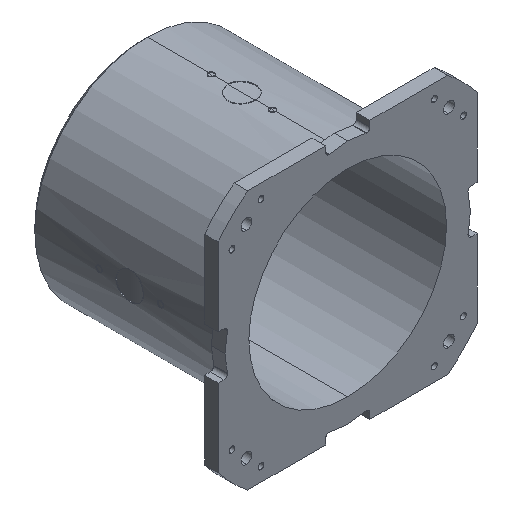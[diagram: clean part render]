
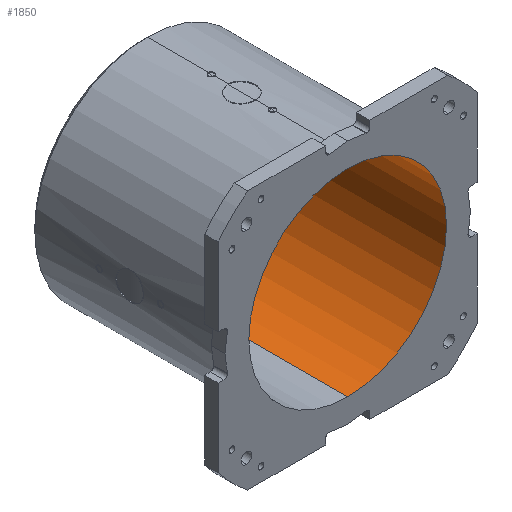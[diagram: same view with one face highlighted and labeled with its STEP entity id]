
A CAD part, isometric view. The second image highlights one B-rep face of the part: STEP entity #1850.
In plain terms, the highlighted cylindrical face has radius 145 mm (diameter 290 mm), a partial arc.
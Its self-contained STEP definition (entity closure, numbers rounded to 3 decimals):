
#131 = CARTESIAN_POINT ( 'NONE',  ( 0., 0., 0. ) ) ;
#285 = DIRECTION ( 'NONE',  ( 0., 1., 0. ) ) ;
#395 = DIRECTION ( 'NONE',  ( 0., 0., 1. ) ) ;
#561 = CARTESIAN_POINT ( 'NONE',  ( 0., 0., 145. ) ) ;
#741 = VECTOR ( 'NONE', #285, 1000. ) ;
#904 = FACE_OUTER_BOUND ( 'NONE', #3631, .T. ) ;
#1371 = EDGE_CURVE ( 'NONE', #6035, #2912, #7455, .T. ) ;
#1593 = CIRCLE ( 'NONE', #2336, 145. ) ;
#1787 = AXIS2_PLACEMENT_3D ( 'NONE', #131, #2499, #4900 ) ;
#1850 = ADVANCED_FACE ( 'NONE', ( #904 ), #5495, .F. ) ;
#1984 = ORIENTED_EDGE ( 'NONE', *, *, #4471, .T. ) ;
#2047 = CARTESIAN_POINT ( 'NONE',  ( 0., 0., -145. ) ) ;
#2086 = DIRECTION ( 'NONE',  ( 0., 1., 0. ) ) ;
#2202 = CARTESIAN_POINT ( 'NONE',  ( 0., 0., 0. ) ) ;
#2336 = AXIS2_PLACEMENT_3D ( 'NONE', #7424, #5668, #2670 ) ;
#2411 = AXIS2_PLACEMENT_3D ( 'NONE', #2202, #2086, #395 ) ;
#2499 = DIRECTION ( 'NONE',  ( 0., 1., 0. ) ) ;
#2644 = EDGE_CURVE ( 'NONE', #4664, #6035, #5871, .T. ) ;
#2670 = DIRECTION ( 'NONE',  ( 0., 0., 1. ) ) ;
#2698 = EDGE_CURVE ( 'NONE', #4664, #3345, #2819, .T. ) ;
#2819 = LINE ( 'NONE', #7022, #6415 ) ;
#2912 = VERTEX_POINT ( 'NONE', #5937 ) ;
#3345 = VERTEX_POINT ( 'NONE', #3957 ) ;
#3392 = CARTESIAN_POINT ( 'NONE',  ( 0., 0., -145. ) ) ;
#3631 = EDGE_LOOP ( 'NONE', ( #4581, #5662, #6191, #1984 ) ) ;
#3957 = CARTESIAN_POINT ( 'NONE',  ( 0., 282., 145. ) ) ;
#4471 = EDGE_CURVE ( 'NONE', #3345, #2912, #1593, .T. ) ;
#4581 = ORIENTED_EDGE ( 'NONE', *, *, #1371, .F. ) ;
#4628 = DIRECTION ( 'NONE',  ( 0., 1., 0. ) ) ;
#4664 = VERTEX_POINT ( 'NONE', #561 ) ;
#4900 = DIRECTION ( 'NONE',  ( 0., 0., 1. ) ) ;
#5495 = CYLINDRICAL_SURFACE ( 'NONE', #1787, 145. ) ;
#5662 = ORIENTED_EDGE ( 'NONE', *, *, #2644, .F. ) ;
#5668 = DIRECTION ( 'NONE',  ( 0., 1., 0. ) ) ;
#5871 = CIRCLE ( 'NONE', #2411, 145. ) ;
#5937 = CARTESIAN_POINT ( 'NONE',  ( 0., 282., -145. ) ) ;
#6035 = VERTEX_POINT ( 'NONE', #3392 ) ;
#6191 = ORIENTED_EDGE ( 'NONE', *, *, #2698, .T. ) ;
#6415 = VECTOR ( 'NONE', #4628, 1000. ) ;
#7022 = CARTESIAN_POINT ( 'NONE',  ( 0., 0., 145. ) ) ;
#7424 = CARTESIAN_POINT ( 'NONE',  ( 0., 282., 0. ) ) ;
#7455 = LINE ( 'NONE', #2047, #741 ) ;
